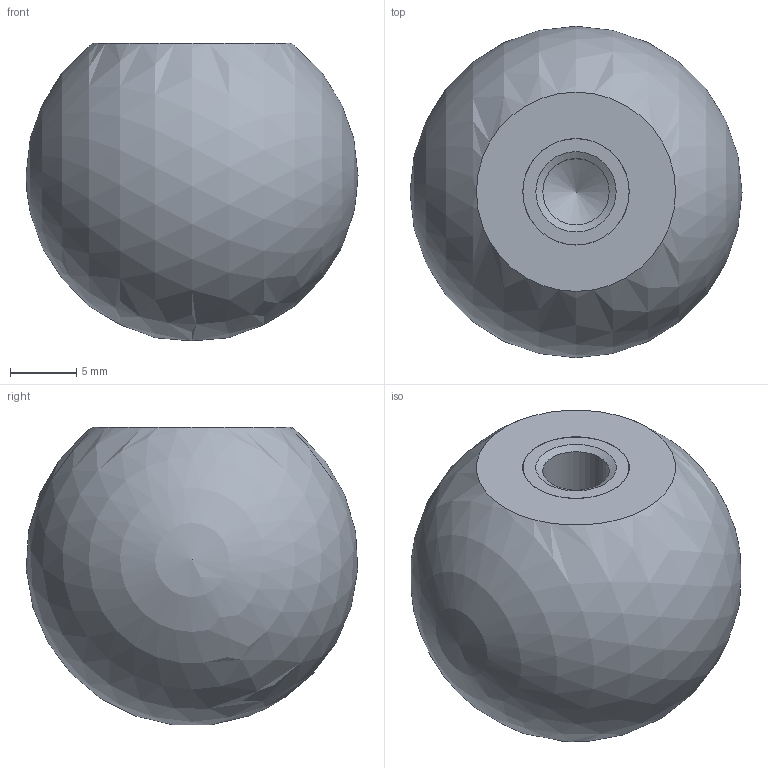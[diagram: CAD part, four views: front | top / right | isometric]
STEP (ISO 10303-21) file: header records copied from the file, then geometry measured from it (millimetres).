
FILE_DESCRIPTION (( 'STEP AP214' ), '1' );
FILE_NAME ('319-KT-25-M6-E.step', '2019-04-24T07:38:23', ( 'user' ), ( '' ), 'SwSTEP 2.0', 'SolidWorks 2019', '' );
FILE_SCHEMA (( 'AUTOMOTIVE_DESIGN' ));
Length unit declared in the file: millimetre
Products named in the file (1): 319-KT-25-M6-E
Bounding box: 25 x 24.96 x 22.42 mm (x, y, z)
Volume: 7705.4 mm3; surface area: 2132.8 mm2
Topology: 1 solids, 1 shells, 9 faces, 17 edges, 11 vertices
Faces by surface type: plane 3, cylinder 3, cone 2, sphere 1
Full cylindrical faces by diameter (mm): 5 x1, 8 x1, 8.02 x1
Entity records: 252 total; most frequent: DIRECTION 36, CARTESIAN_POINT 26, AXIS2_PLACEMENT_3D 18, EDGE_LOOP 16, ORIENTED_EDGE 16, FACE_OUTER_BOUND 12, ADVANCED_FACE 9, EDGE_CURVE 8
